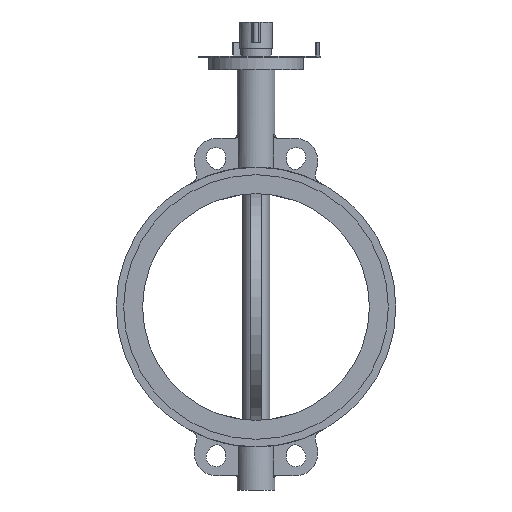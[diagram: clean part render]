
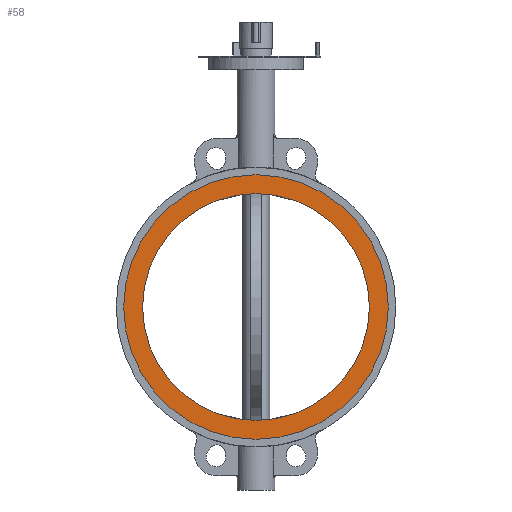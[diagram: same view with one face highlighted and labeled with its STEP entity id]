
A CAD part, left-side view. The second image highlights one B-rep face of the part: STEP entity #58.
In plain terms, the highlighted planar face has unit normal (-1, 0, 0).
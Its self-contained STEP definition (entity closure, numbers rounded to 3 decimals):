
#58=ADVANCED_FACE('',(#7303,#7305),#7307,.F.);
#7303=FACE_BOUND('',#7304,.T.);
#7304=EDGE_LOOP('',(#13066));
#7305=FACE_BOUND('',#7306,.T.);
#7306=EDGE_LOOP('',(#13067));
#7307=PLANE('',#7308);
#7308=AXIS2_PLACEMENT_3D('',#7309,#7310,#7311);
#7309=CARTESIAN_POINT('',(-39.,0.,0.));
#7310=DIRECTION('',(1.,0.,0.));
#7311=DIRECTION('',(0.,1.,0.));
#13066=ORIENTED_EDGE('',*,*,#17733,.T.);
#13067=ORIENTED_EDGE('',*,*,#17734,.T.);
#17733=EDGE_CURVE('',#20098,#20098,#20099,.F.);
#17734=EDGE_CURVE('',#20100,#20100,#20101,.T.);
#20098=VERTEX_POINT('',#24002);
#20099=CIRCLE('',#24003,175.);
#20100=VERTEX_POINT('',#24007);
#20101=CIRCLE('',#24008,150.);
#24002=CARTESIAN_POINT('',(-39.,175.,0.));
#24003=AXIS2_PLACEMENT_3D('',#24004,#24005,#24006);
#24004=CARTESIAN_POINT('',(-39.,0.,0.));
#24005=DIRECTION('',(1.,0.,0.));
#24006=DIRECTION('',(0.,1.,0.));
#24007=CARTESIAN_POINT('',(-39.,150.,0.));
#24008=AXIS2_PLACEMENT_3D('',#24009,#24010,#24011);
#24009=CARTESIAN_POINT('',(-39.,0.,0.));
#24010=DIRECTION('',(1.,0.,0.));
#24011=DIRECTION('',(0.,1.,0.));
